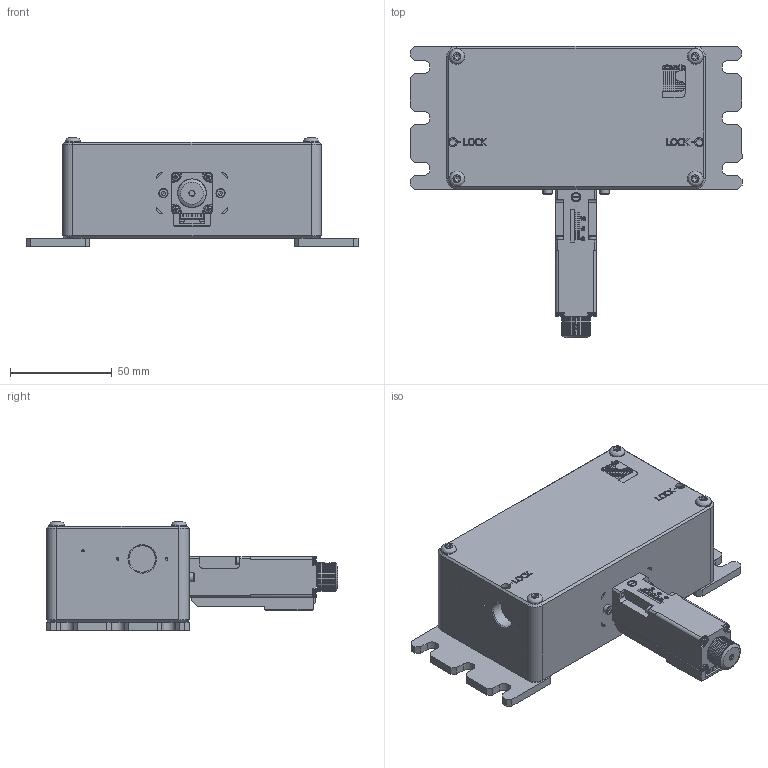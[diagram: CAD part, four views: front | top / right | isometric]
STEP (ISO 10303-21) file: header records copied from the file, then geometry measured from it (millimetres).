
FILE_DESCRIPTION(/* description */ (''),/* implementation_level */ '2;1');
FILE_NAME(/* name */ 'U:\KONSTRUKTORIAI\DOKUMENTACIJA\10\10MVAA-12-800\STEP\10MVAA SB.stp',/* time_stamp */ '2019-02-20T07:15:19+02:00',/* author */ ('dsgn32'),/* organization */ (''),/* preprocessor_version */ 'ST-DEVELOPER v15.2',/* originating_system */ 'Autodesk Inventor 2014',/* authorisation */ '');
FILE_SCHEMA (('AUTOMOTIVE_DESIGN { 1 0 10303 214 3 1 1 }'));
Length unit declared in the file: millimetre
Products named in the file (1): 10MVAA SB
Bounding box: 163 x 142.9 x 53.2 mm (x, y, z)
Volume: 450755.8 mm3; surface area: 59957.7 mm2
Topology: 1 solids, 23 shells, 1631 faces, 3887 edges, 2494 vertices
Faces by surface type: plane 1016, cylinder 276, bspline 159, cone 129, torus 47, sphere 4
Full cylindrical faces by diameter (mm): 0.324 x85, 1 x1, 1.221 x6, 1.567 x11, 2 x7, 2.013 x4, 2.3 x5, 2.459 x4, 2.5 x6, 3 x2, 3.242 x10, 3.5 x4, 3.8 x5, 4 x8, 4.5 x15, 4.917 x1, 5 x1, 6 x2, 7.6 x4, 9 x3, 10 x3, 11.86 x1, 12 x2, 13 x4, 14 x1
Entity records: 48140 total; most frequent: CARTESIAN_POINT 11720, ORIENTED_EDGE 6976, DIRECTION 6700, EDGE_CURVE 3484, AXIS2_PLACEMENT_3D 2378, VERTEX_POINT 2375, EDGE_LOOP 2142, LINE 1944
